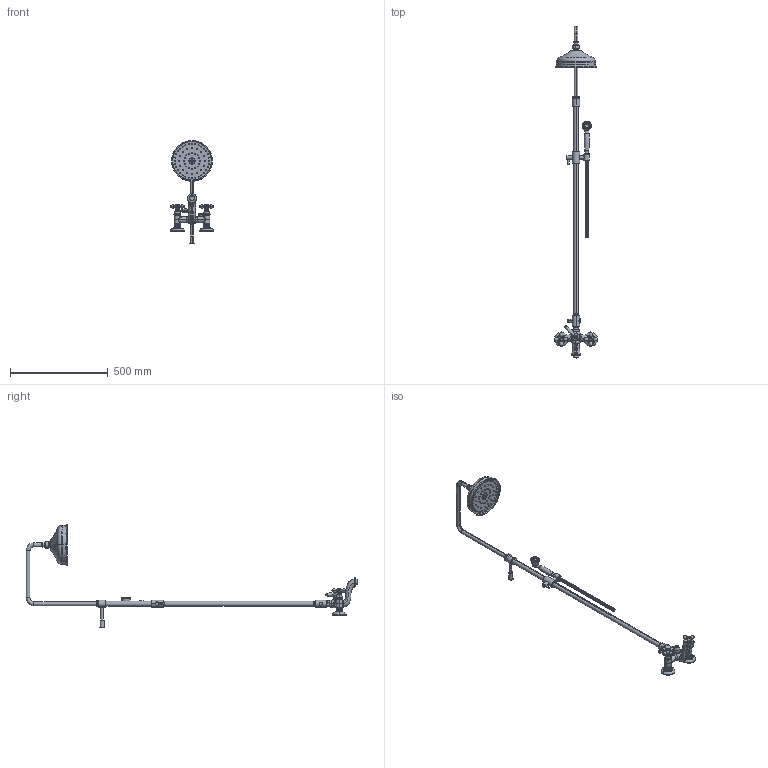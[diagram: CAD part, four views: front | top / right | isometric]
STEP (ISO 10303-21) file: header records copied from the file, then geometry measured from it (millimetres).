
FILE_DESCRIPTION((''),'2;1');
FILE_NAME('F5004_2_FILE_3D','2020-10-06T',('ivanv'),(''),'CREO PARAMETRIC BY PTC INC, 2018360','CREO PARAMETRIC BY PTC INC, 2018360','');
FILE_SCHEMA(('CONFIG_CONTROL_DESIGN'));
Products named in the file (1): F5004_2_FILE_3D
Bounding box: 224 x 1693.7 x 525.5 mm (x, y, z)
Volume: 2573694.2 mm3; surface area: 551503.1 mm2
Topology: 7 solids, 8 shells, 1867 faces, 4362 edges, 2715 vertices
Faces by surface type: cylinder 638, plane 499, torus 322, bspline 199, cone 183, sphere 26
Entity records: 135649 total; most frequent: CARTESIAN_POINT 94008, ORIENTED_EDGE 8672, DIRECTION 8616, EDGE_CURVE 4336, AXIS2_PLACEMENT_3D 3654, VERTEX_POINT 2715, EDGE_LOOP 2133, CIRCLE 1986
